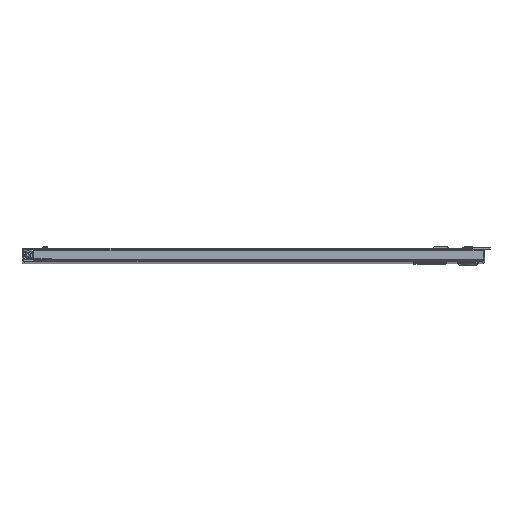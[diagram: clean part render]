
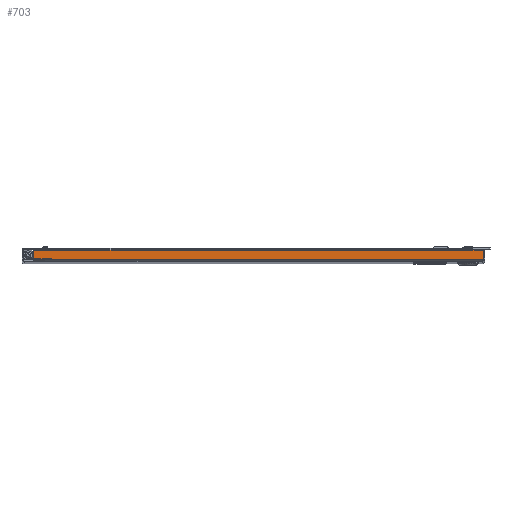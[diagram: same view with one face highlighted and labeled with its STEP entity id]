
A CAD part, top view. The second image highlights one B-rep face of the part: STEP entity #703.
In plain terms, the highlighted planar face has unit normal (0, 0, 1).
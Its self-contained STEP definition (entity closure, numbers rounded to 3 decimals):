
#703 = ADVANCED_FACE( '', ( #1447 ), #1448, .T. );
#1447 = FACE_OUTER_BOUND( '', #2399, .T. );
#1448 = PLANE( '', #2400 );
#2399 = EDGE_LOOP( '', ( #4036, #4037, #4038, #4039, #4040, #4041, #4042 ) );
#2400 = AXIS2_PLACEMENT_3D( '', #4043, #4044, #4045 );
#4036 = ORIENTED_EDGE( '', *, *, #5521, .T. );
#4037 = ORIENTED_EDGE( '', *, *, #5597, .T. );
#4038 = ORIENTED_EDGE( '', *, *, #5733, .F. );
#4039 = ORIENTED_EDGE( '', *, *, #5761, .F. );
#4040 = ORIENTED_EDGE( '', *, *, #5866, .F. );
#4041 = ORIENTED_EDGE( '', *, *, #5408, .T. );
#4042 = ORIENTED_EDGE( '', *, *, #5867, .T. );
#4043 = CARTESIAN_POINT( '', ( -233.604, 1.181, 796.925 ) );
#4044 = DIRECTION( '', ( 0., 0., 1. ) );
#4045 = DIRECTION( '', ( 0., -1., 0. ) );
#5408 = EDGE_CURVE( '', #6350, #6347, #6351, .T. );
#5521 = EDGE_CURVE( '', #6542, #6551, #6553, .T. );
#5597 = EDGE_CURVE( '', #6551, #6678, #6679, .T. );
#5733 = EDGE_CURVE( '', #6891, #6678, #6893, .T. );
#5761 = EDGE_CURVE( '', #6934, #6891, #6936, .T. );
#5866 = EDGE_CURVE( '', #6350, #6934, #7086, .T. );
#5867 = EDGE_CURVE( '', #6347, #6542, #7087, .T. );
#6347 = VERTEX_POINT( '', #7736 );
#6350 = VERTEX_POINT( '', #7739 );
#6351 = LINE( '', #7740, #7741 );
#6542 = VERTEX_POINT( '', #8046 );
#6551 = VERTEX_POINT( '', #8063 );
#6553 = LINE( '', #8066, #8067 );
#6678 = VERTEX_POINT( '', #8252 );
#6679 = LINE( '', #8253, #8254 );
#6891 = VERTEX_POINT( '', #8599 );
#6893 = LINE( '', #8602, #8603 );
#6934 = VERTEX_POINT( '', #8660 );
#6936 = LINE( '', #8663, #8664 );
#7086 = LINE( '', #8926, #8927 );
#7087 = LINE( '', #8928, #8929 );
#7736 = CARTESIAN_POINT( '', ( -233.604, 2.184, 796.925 ) );
#7739 = CARTESIAN_POINT( '', ( -233.604, 11.303, 796.925 ) );
#7740 = CARTESIAN_POINT( '', ( -233.604, 1.181, 796.925 ) );
#7741 = VECTOR( '', #9636, 1000. );
#8046 = CARTESIAN_POINT( '', ( 243.256, 2.184, 796.925 ) );
#8063 = CARTESIAN_POINT( '', ( 243.256, 12.04, 796.925 ) );
#8066 = CARTESIAN_POINT( '', ( 243.256, 1.181, 796.925 ) );
#8067 = VECTOR( '', #9765, 1000. );
#8252 = CARTESIAN_POINT( '', ( 232.158, 12.04, 796.925 ) );
#8253 = CARTESIAN_POINT( '', ( 244.729, 12.04, 796.925 ) );
#8254 = VECTOR( '', #9847, 1000. );
#8599 = CARTESIAN_POINT( '', ( 232.158, 11.303, 796.925 ) );
#8602 = CARTESIAN_POINT( '', ( 232.158, 11.303, 796.925 ) );
#8603 = VECTOR( '', #9995, 1000. );
#8660 = CARTESIAN_POINT( '', ( 232.156, 11.303, 796.925 ) );
#8663 = CARTESIAN_POINT( '', ( 232.156, 11.303, 796.925 ) );
#8664 = VECTOR( '', #10019, 1000. );
#8926 = CARTESIAN_POINT( '', ( 232.156, 11.303, 796.925 ) );
#8927 = VECTOR( '', #10121, 1000. );
#8928 = CARTESIAN_POINT( '', ( -233.604, 2.184, 796.925 ) );
#8929 = VECTOR( '', #10122, 1000. );
#9636 = DIRECTION( '', ( 0., -1., 0. ) );
#9765 = DIRECTION( '', ( 0., 1., 0. ) );
#9847 = DIRECTION( '', ( -1., 0., 0. ) );
#9995 = DIRECTION( '', ( 0., 1., 0. ) );
#10019 = DIRECTION( '', ( 1., 0., 0. ) );
#10121 = DIRECTION( '', ( 1., 0., 0. ) );
#10122 = DIRECTION( '', ( 1., 0., 0. ) );
